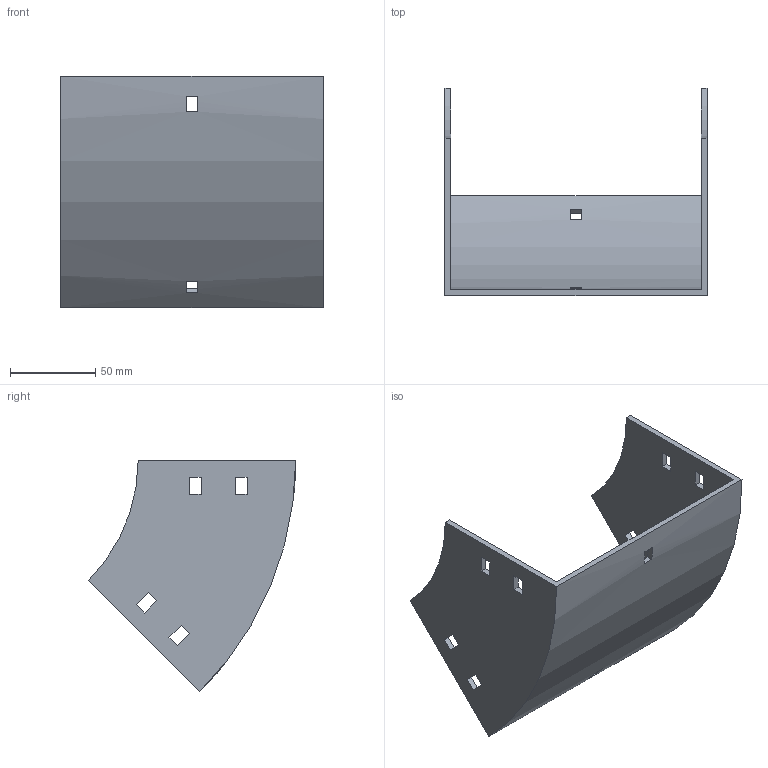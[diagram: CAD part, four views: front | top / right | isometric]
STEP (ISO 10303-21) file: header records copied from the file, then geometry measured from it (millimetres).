
FILE_DESCRIPTION (( 'STEP AP214' ), '1' );
FILE_NAME ('31B1I150.step', '2025-02-21T09:48:07', ( '' ), ( '' ), 'SwSTEP 2.0', 'SolidWorks 2023', '' );
FILE_SCHEMA (( 'AUTOMOTIVE_DESIGN' ));
Length unit declared in the file: millimetre
Products named in the file (1): 31B1I150
Bounding box: 154 x 121.79 x 136.12 mm (x, y, z)
Volume: 149083.3 mm3; surface area: 89243.7 mm2
Topology: 1 solids, 1 shells, 50 faces, 144 edges, 96 vertices
Faces by surface type: plane 46, cylinder 4
Entity records: 1687 total; most frequent: CARTESIAN_POINT 291, ORIENTED_EDGE 288, DIRECTION 262, EDGE_CURVE 144, VECTOR 128, LINE 128, VERTEX_POINT 96, EDGE_LOOP 70
